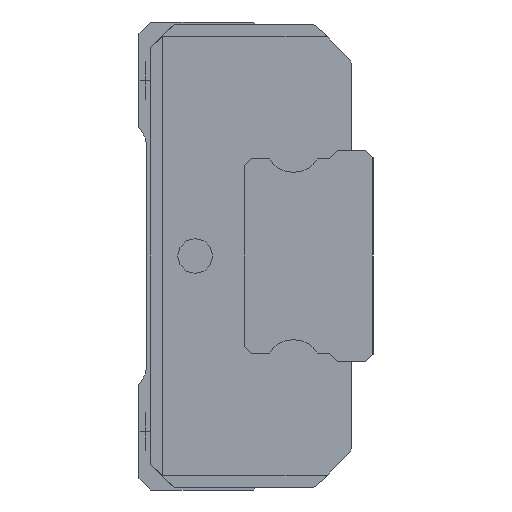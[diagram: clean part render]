
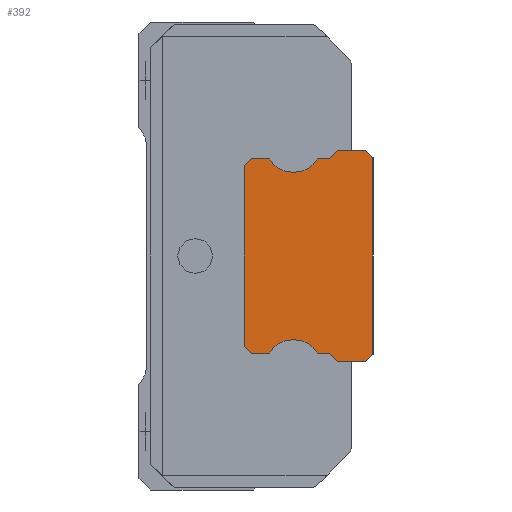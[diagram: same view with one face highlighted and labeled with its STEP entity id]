
A CAD part, left-side view. The second image highlights one B-rep face of the part: STEP entity #392.
In plain terms, the highlighted planar face has unit normal (-1, 0, 0).
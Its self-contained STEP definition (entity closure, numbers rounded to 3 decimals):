
#392 = ADVANCED_FACE( '', ( #1186 ), #1187, .F. );
#1186 = FACE_OUTER_BOUND( '', #2090, .T. );
#1187 = PLANE( '', #2091 );
#2090 = EDGE_LOOP( '', ( #4403, #4404, #4405, #4406, #4407, #4408, #4409, #4410, #4411, #4412, #4413, #4414, #4415, #4416, #4417, #4418, #4419, #4420 ) );
#2091 = AXIS2_PLACEMENT_3D( '', #4421, #4422, #4423 );
#4403 = ORIENTED_EDGE( '', *, *, #5917, .F. );
#4404 = ORIENTED_EDGE( '', *, *, #5866, .F. );
#4405 = ORIENTED_EDGE( '', *, *, #5870, .F. );
#4406 = ORIENTED_EDGE( '', *, *, #5873, .F. );
#4407 = ORIENTED_EDGE( '', *, *, #5876, .F. );
#4408 = ORIENTED_EDGE( '', *, *, #5879, .F. );
#4409 = ORIENTED_EDGE( '', *, *, #5882, .F. );
#4410 = ORIENTED_EDGE( '', *, *, #5885, .F. );
#4411 = ORIENTED_EDGE( '', *, *, #5888, .F. );
#4412 = ORIENTED_EDGE( '', *, *, #5891, .F. );
#4413 = ORIENTED_EDGE( '', *, *, #5894, .F. );
#4414 = ORIENTED_EDGE( '', *, *, #5897, .F. );
#4415 = ORIENTED_EDGE( '', *, *, #5900, .F. );
#4416 = ORIENTED_EDGE( '', *, *, #5903, .F. );
#4417 = ORIENTED_EDGE( '', *, *, #5906, .F. );
#4418 = ORIENTED_EDGE( '', *, *, #5909, .F. );
#4419 = ORIENTED_EDGE( '', *, *, #5912, .F. );
#4420 = ORIENTED_EDGE( '', *, *, #5915, .F. );
#4421 = CARTESIAN_POINT( '', ( -10., 0., 0. ) );
#4422 = DIRECTION( '', ( 1., 0., 0. ) );
#4423 = DIRECTION( '', ( 0., 0., -1. ) );
#5866 = EDGE_CURVE( '', #7185, #7187, #7188, .T. );
#5870 = EDGE_CURVE( '', #7192, #7185, #7194, .T. );
#5873 = EDGE_CURVE( '', #7197, #7192, #7199, .T. );
#5876 = EDGE_CURVE( '', #7202, #7197, #7204, .T. );
#5879 = EDGE_CURVE( '', #7207, #7202, #7209, .T. );
#5882 = EDGE_CURVE( '', #7212, #7207, #7214, .T. );
#5885 = EDGE_CURVE( '', #7217, #7212, #7219, .T. );
#5888 = EDGE_CURVE( '', #7222, #7217, #7224, .T. );
#5891 = EDGE_CURVE( '', #7227, #7222, #7229, .T. );
#5894 = EDGE_CURVE( '', #7232, #7227, #7234, .T. );
#5897 = EDGE_CURVE( '', #7237, #7232, #7239, .T. );
#5900 = EDGE_CURVE( '', #7242, #7237, #7244, .T. );
#5903 = EDGE_CURVE( '', #7247, #7242, #7249, .T. );
#5906 = EDGE_CURVE( '', #7252, #7247, #7254, .T. );
#5909 = EDGE_CURVE( '', #7257, #7252, #7259, .T. );
#5912 = EDGE_CURVE( '', #7262, #7257, #7264, .T. );
#5915 = EDGE_CURVE( '', #7267, #7262, #7269, .T. );
#5917 = EDGE_CURVE( '', #7187, #7267, #7271, .T. );
#7185 = VERTEX_POINT( '', #8908 );
#7187 = VERTEX_POINT( '', #8911 );
#7188 = LINE( '', #8912, #8913 );
#7192 = VERTEX_POINT( '', #8919 );
#7194 = LINE( '', #8922, #8923 );
#7197 = VERTEX_POINT( '', #8927 );
#7199 = LINE( '', #8930, #8931 );
#7202 = VERTEX_POINT( '', #8934 );
#7204 = CIRCLE( '', #8937, 1.1 );
#7207 = VERTEX_POINT( '', #8940 );
#7209 = CIRCLE( '', #8943, 1.1 );
#7212 = VERTEX_POINT( '', #8947 );
#7214 = LINE( '', #8950, #8951 );
#7217 = VERTEX_POINT( '', #8955 );
#7219 = LINE( '', #8958, #8959 );
#7222 = VERTEX_POINT( '', #8963 );
#7224 = LINE( '', #8966, #8967 );
#7227 = VERTEX_POINT( '', #8971 );
#7229 = LINE( '', #8974, #8975 );
#7232 = VERTEX_POINT( '', #8979 );
#7234 = LINE( '', #8982, #8983 );
#7237 = VERTEX_POINT( '', #8986 );
#7239 = CIRCLE( '', #8989, 1.1 );
#7242 = VERTEX_POINT( '', #8992 );
#7244 = CIRCLE( '', #8995, 1.1 );
#7247 = VERTEX_POINT( '', #8999 );
#7249 = LINE( '', #9002, #9003 );
#7252 = VERTEX_POINT( '', #9007 );
#7254 = LINE( '', #9010, #9011 );
#7257 = VERTEX_POINT( '', #9015 );
#7259 = LINE( '', #9018, #9019 );
#7262 = VERTEX_POINT( '', #9023 );
#7264 = LINE( '', #9026, #9027 );
#7267 = VERTEX_POINT( '', #9031 );
#7269 = LINE( '', #9034, #9035 );
#7271 = LINE( '', #9038, #9039 );
#8908 = CARTESIAN_POINT( '', ( -10., 1.5, 4.5 ) );
#8911 = CARTESIAN_POINT( '', ( -10., 0.3, 4.5 ) );
#8912 = CARTESIAN_POINT( '', ( -10., 1.5, 4.5 ) );
#8913 = VECTOR( '', #11078, 1. );
#8919 = CARTESIAN_POINT( '', ( -10., 1.85, 4.15 ) );
#8922 = CARTESIAN_POINT( '', ( -10., 1.85, 4.15 ) );
#8923 = VECTOR( '', #11082, 1. );
#8927 = CARTESIAN_POINT( '', ( -10., 2.376, 4.15 ) );
#8930 = CARTESIAN_POINT( '', ( -10., 2.376, 4.15 ) );
#8931 = VECTOR( '', #11085, 1. );
#8934 = CARTESIAN_POINT( '', ( -10., 3.4, 3.582 ) );
#8937 = AXIS2_PLACEMENT_3D( '', #11090, #11091, #11092 );
#8940 = CARTESIAN_POINT( '', ( -10., 4.424, 4.15 ) );
#8943 = AXIS2_PLACEMENT_3D( '', #11097, #11098, #11099 );
#8947 = CARTESIAN_POINT( '', ( -10., 5.2, 4.15 ) );
#8950 = CARTESIAN_POINT( '', ( -10., 5.2, 4.15 ) );
#8951 = VECTOR( '', #11102, 1. );
#8955 = CARTESIAN_POINT( '', ( -10., 5.5, 3.85 ) );
#8958 = CARTESIAN_POINT( '', ( -10., 5.5, 3.85 ) );
#8959 = VECTOR( '', #11105, 1. );
#8963 = CARTESIAN_POINT( '', ( -10., 5.5, -3.85 ) );
#8966 = CARTESIAN_POINT( '', ( -10., 5.5, -3.85 ) );
#8967 = VECTOR( '', #11108, 1. );
#8971 = CARTESIAN_POINT( '', ( -10., 5.2, -4.15 ) );
#8974 = CARTESIAN_POINT( '', ( -10., 5.2, -4.15 ) );
#8975 = VECTOR( '', #11111, 1. );
#8979 = CARTESIAN_POINT( '', ( -10., 4.424, -4.15 ) );
#8982 = CARTESIAN_POINT( '', ( -10., 4.424, -4.15 ) );
#8983 = VECTOR( '', #11114, 1. );
#8986 = CARTESIAN_POINT( '', ( -10., 3.4, -3.582 ) );
#8989 = AXIS2_PLACEMENT_3D( '', #11119, #11120, #11121 );
#8992 = CARTESIAN_POINT( '', ( -10., 2.376, -4.15 ) );
#8995 = AXIS2_PLACEMENT_3D( '', #11126, #11127, #11128 );
#8999 = CARTESIAN_POINT( '', ( -10., 1.85, -4.15 ) );
#9002 = CARTESIAN_POINT( '', ( -10., 1.85, -4.15 ) );
#9003 = VECTOR( '', #11131, 1. );
#9007 = CARTESIAN_POINT( '', ( -10., 1.5, -4.5 ) );
#9010 = CARTESIAN_POINT( '', ( -10., 1.5, -4.5 ) );
#9011 = VECTOR( '', #11134, 1. );
#9015 = CARTESIAN_POINT( '', ( -10., 0.3, -4.5 ) );
#9018 = CARTESIAN_POINT( '', ( -10., 0.3, -4.5 ) );
#9019 = VECTOR( '', #11137, 1. );
#9023 = CARTESIAN_POINT( '', ( -10., 0., -4.2 ) );
#9026 = CARTESIAN_POINT( '', ( -10., 0., -4.2 ) );
#9027 = VECTOR( '', #11140, 1. );
#9031 = CARTESIAN_POINT( '', ( -10., 0., 4.2 ) );
#9034 = CARTESIAN_POINT( '', ( -10., 0., 4.2 ) );
#9035 = VECTOR( '', #11143, 1. );
#9038 = CARTESIAN_POINT( '', ( -10., 0.3, 4.5 ) );
#9039 = VECTOR( '', #11145, 1. );
#11078 = DIRECTION( '', ( 0., -1., 0. ) );
#11082 = DIRECTION( '', ( 0., -0.707, 0.707 ) );
#11085 = DIRECTION( '', ( 0., -1., 0. ) );
#11090 = CARTESIAN_POINT( '', ( -10., 3.34, 4.68 ) );
#11091 = DIRECTION( '', ( -1., 0., 0. ) );
#11092 = DIRECTION( '', ( 0., 0.055, -0.999 ) );
#11097 = CARTESIAN_POINT( '', ( -10., 3.46, 4.68 ) );
#11098 = DIRECTION( '', ( -1., 0., 0. ) );
#11099 = DIRECTION( '', ( 0., 0.876, -0.482 ) );
#11102 = DIRECTION( '', ( 0., -1., 0. ) );
#11105 = DIRECTION( '', ( 0., -0.707, 0.707 ) );
#11108 = DIRECTION( '', ( 0., 0., 1. ) );
#11111 = DIRECTION( '', ( 0., 0.707, 0.707 ) );
#11114 = DIRECTION( '', ( 0., 1., 0. ) );
#11119 = CARTESIAN_POINT( '', ( -10., 3.46, -4.68 ) );
#11120 = DIRECTION( '', ( -1., 0., 0. ) );
#11121 = DIRECTION( '', ( 0., -0.055, 0.999 ) );
#11126 = CARTESIAN_POINT( '', ( -10., 3.34, -4.68 ) );
#11127 = DIRECTION( '', ( -1., 0., 0. ) );
#11128 = DIRECTION( '', ( 0., -0.876, 0.482 ) );
#11131 = DIRECTION( '', ( 0., 1., 0. ) );
#11134 = DIRECTION( '', ( 0., 0.707, 0.707 ) );
#11137 = DIRECTION( '', ( 0., 1., 0. ) );
#11140 = DIRECTION( '', ( 0., 0.707, -0.707 ) );
#11143 = DIRECTION( '', ( 0., 0., -1. ) );
#11145 = DIRECTION( '', ( 0., -0.707, -0.707 ) );
